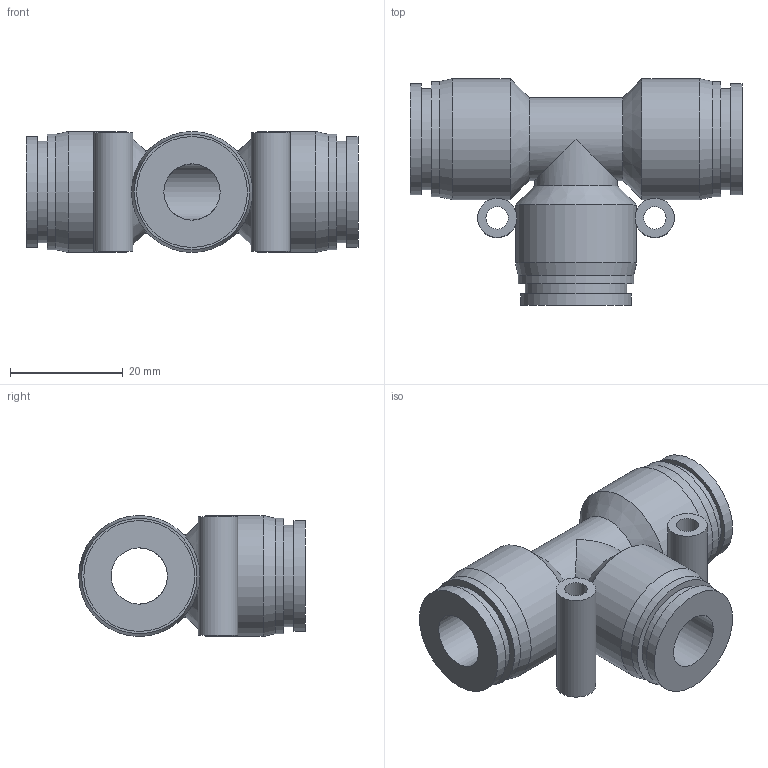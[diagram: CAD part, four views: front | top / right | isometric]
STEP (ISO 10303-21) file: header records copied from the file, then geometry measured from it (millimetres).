
FILE_DESCRIPTION((''),'2;1');
FILE_NAME('S:\UTecnico\ArchivioUT\Speciali Clienti\Speciali KONFIT\Plastica\RP\08\RP 55\RP551210.stp','2012-05-14T15:46:49',('UT5'),(''),'Autodesk Inventor 2012','Autodesk Inventor 2012','');
FILE_SCHEMA(('AUTOMOTIVE_DESIGN { 1 0 10303 214 1 1 1 1 }'));
Length unit declared in the file: millimetre
Products named in the file (1): RP551210
Bounding box: 59 x 40.25 x 21.5 mm (x, y, z)
Volume: 18486.5 mm3; surface area: 10230.1 mm2
Topology: 3 solids, 3 shells, 39 faces, 76 edges, 49 vertices
Faces by surface type: cylinder 20, plane 13, cone 6
Full cylindrical faces by diameter (mm): 4 x2, 7 x2, 10 x2, 14.7 x2, 18 x3, 19.7 x3, 20.5 x3, 21.5 x3
Entity records: 902 total; most frequent: DIRECTION 164, CARTESIAN_POINT 124, ORIENTED_EDGE 84, AXIS2_PLACEMENT_3D 82, EDGE_LOOP 80, VERTEX_POINT 42, EDGE_CURVE 42, FACE_BOUND 41
